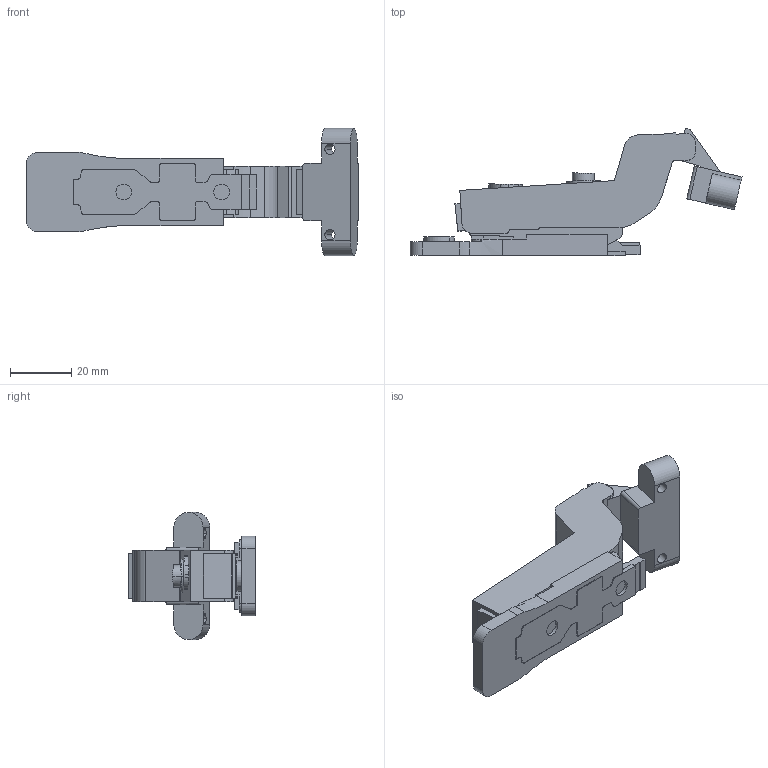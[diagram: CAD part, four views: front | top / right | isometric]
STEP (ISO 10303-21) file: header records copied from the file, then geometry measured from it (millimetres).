
FILE_DESCRIPTION (( 'STEP AP203' ), '1' );
FILE_NAME ('C80C678F+80H20YQ-DTC 3D open.STEP', '2023-10-07T06:21:56', ( 'Windows 蚚誧' ), ( '' ), 'SwSTEP 2.0', 'SolidWorks 2018', '' );
FILE_SCHEMA (( 'CONFIG_CONTROL_DESIGN' ));
Length unit declared in the file: millimetre
Products named in the file (1): C80C678F+80H20YQ-DTC 3D  open
Bounding box: 108.52 x 41.77 x 41.6 mm (x, y, z)
Volume: 37733.1 mm3; surface area: 11879.6 mm2
Topology: 1 solids, 1 shells, 212 faces, 607 edges, 404 vertices
Faces by surface type: plane 117, cylinder 89, bspline 4, torus 2
Entity records: 7219 total; most frequent: CARTESIAN_POINT 1469, ORIENTED_EDGE 1214, DIRECTION 1187, EDGE_CURVE 607, VECTOR 407, LINE 407, VERTEX_POINT 404, AXIS2_PLACEMENT_3D 390
